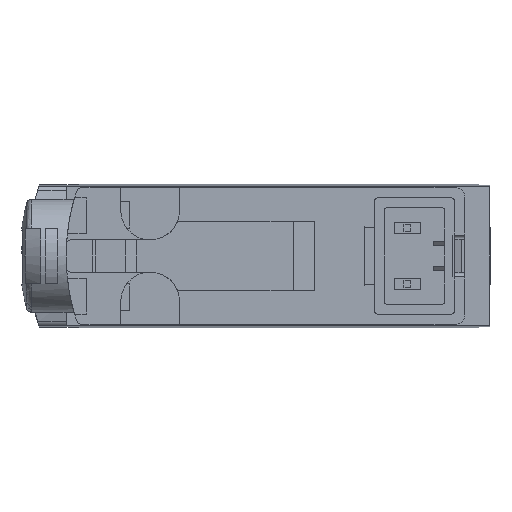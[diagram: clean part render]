
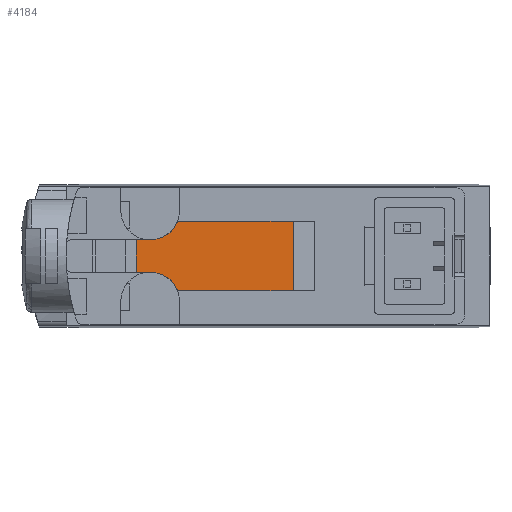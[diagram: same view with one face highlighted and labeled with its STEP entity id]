
A CAD part, left-side view. The second image highlights one B-rep face of the part: STEP entity #4184.
In plain terms, the highlighted planar face has unit normal (-1, 0, 0) as drawn and (1, 0, 0) by its records, which use the part's own axes.
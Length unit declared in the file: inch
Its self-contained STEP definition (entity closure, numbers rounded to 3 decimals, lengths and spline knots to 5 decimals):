
#388 = ORIENTED_EDGE ( 'NONE', *, *, #11418, .T. ) ;
#875 = DIRECTION ( 'NONE',  ( 0., 0., -1. ) ) ;
#1228 = CARTESIAN_POINT ( 'NONE',  ( 0.24409, 0.9252, 0.04528 ) ) ;
#1300 = VERTEX_POINT ( 'NONE', #3786 ) ;
#1339 = DIRECTION ( 'NONE',  ( 0., 0., -1. ) ) ;
#1445 = DIRECTION ( 'NONE',  ( 0., -0.899, -0.437 ) ) ;
#1531 = CARTESIAN_POINT ( 'NONE',  ( 0.24409, 0.88583, 0.12795 ) ) ;
#1699 = VERTEX_POINT ( 'NONE', #11917 ) ;
#2265 = VECTOR ( 'NONE', #7726, 39.37008 ) ;
#2273 = AXIS2_PLACEMENT_3D ( 'NONE', #1531, #9605, #1445 ) ;
#2385 = DIRECTION ( 'NONE',  ( 1., 0., 0. ) ) ;
#2548 = FACE_OUTER_BOUND ( 'NONE', #11368, .T. ) ;
#2722 = VERTEX_POINT ( 'NONE', #16173 ) ;
#2920 = ORIENTED_EDGE ( 'NONE', *, *, #5103, .T. ) ;
#2954 = LINE ( 'NONE', #6953, #8388 ) ;
#3115 = VERTEX_POINT ( 'NONE', #15811 ) ;
#3293 = VERTEX_POINT ( 'NONE', #13534 ) ;
#3522 = EDGE_CURVE ( 'NONE', #4357, #2722, #12190, .T. ) ;
#3607 = CARTESIAN_POINT ( 'NONE',  ( 0.24409, 0.48327, -0.09843 ) ) ;
#3786 = CARTESIAN_POINT ( 'NONE',  ( 0.24409, 0.80086, -0.09843 ) ) ;
#4109 = VECTOR ( 'NONE', #875, 39.37008 ) ;
#4173 = ORIENTED_EDGE ( 'NONE', *, *, #9569, .T. ) ;
#4184 = ADVANCED_FACE ( 'NONE', ( #2548 ), #6457, .T. ) ;
#4219 = AXIS2_PLACEMENT_3D ( 'NONE', #14281, #2385, #1339 ) ;
#4357 = VERTEX_POINT ( 'NONE', #16330 ) ;
#4550 = CARTESIAN_POINT ( 'NONE',  ( 0.24409, 0.81148, -0.09178 ) ) ;
#4651 = LINE ( 'NONE', #9955, #9206 ) ;
#4729 = ORIENTED_EDGE ( 'NONE', *, *, #5742, .F. ) ;
#4764 = DIRECTION ( 'NONE',  ( 0., 0., 1. ) ) ;
#5032 = DIRECTION ( 'NONE',  ( 0., 0.899, 0.438 ) ) ;
#5103 = EDGE_CURVE ( 'NONE', #1699, #3293, #4651, .T. ) ;
#5166 = ORIENTED_EDGE ( 'NONE', *, *, #12986, .T. ) ;
#5273 = VERTEX_POINT ( 'NONE', #12091 ) ;
#5336 = CARTESIAN_POINT ( 'NONE',  ( 0.24409, 0.9252, 0.04528 ) ) ;
#5742 = EDGE_CURVE ( 'NONE', #1699, #15003, #6348, .T. ) ;
#6073 = VERTEX_POINT ( 'NONE', #3607 ) ;
#6348 = CIRCLE ( 'NONE', #16321, 0.08268 ) ;
#6457 = PLANE ( 'NONE',  #4219 ) ;
#6616 = VERTEX_POINT ( 'NONE', #1228 ) ;
#6841 = EDGE_CURVE ( 'NONE', #6616, #3293, #12420, .T. ) ;
#6953 = CARTESIAN_POINT ( 'NONE',  ( 0.24409, 0.48327, 0.09843 ) ) ;
#7086 = ORIENTED_EDGE ( 'NONE', *, *, #15867, .F. ) ;
#7726 = DIRECTION ( 'NONE',  ( 0., -1., 0. ) ) ;
#7757 = AXIS2_PLACEMENT_3D ( 'NONE', #16938, #10335, #5032 ) ;
#7807 = ORIENTED_EDGE ( 'NONE', *, *, #3522, .T. ) ;
#8255 = DIRECTION ( 'NONE',  ( 0., 0., -1. ) ) ;
#8388 = VECTOR ( 'NONE', #8255, 39.37008 ) ;
#8926 = CARTESIAN_POINT ( 'NONE',  ( 0.24409, 0.88583, -0.12795 ) ) ;
#9023 = LINE ( 'NONE', #14322, #2265 ) ;
#9123 = LINE ( 'NONE', #14420, #12946 ) ;
#9206 = VECTOR ( 'NONE', #11163, 39.37008 ) ;
#9484 = CIRCLE ( 'NONE', #2273, 0.08268 ) ;
#9569 = EDGE_CURVE ( 'NONE', #2722, #5273, #9023, .T. ) ;
#9605 = DIRECTION ( 'NONE',  ( 1., 0., 0. ) ) ;
#9955 = CARTESIAN_POINT ( 'NONE',  ( 0.24409, 0.88583, -0.04528 ) ) ;
#10335 = DIRECTION ( 'NONE',  ( 1., 0., 0. ) ) ;
#10656 = DIRECTION ( 'NONE',  ( 0., 0., -1. ) ) ;
#10966 = ORIENTED_EDGE ( 'NONE', *, *, #13828, .T. ) ;
#11018 = CIRCLE ( 'NONE', #13234, 0.01181 ) ;
#11163 = DIRECTION ( 'NONE',  ( 0., 1., 0. ) ) ;
#11368 = EDGE_LOOP ( 'NONE', ( #5166, #10966, #4729, #2920, #14918, #388, #7086, #7807, #4173, #13708 ) ) ;
#11418 = EDGE_CURVE ( 'NONE', #6616, #3115, #11854, .T. ) ;
#11565 = DIRECTION ( 'NONE',  ( 0., 1., 0. ) ) ;
#11854 = LINE ( 'NONE', #5336, #14239 ) ;
#11862 = CARTESIAN_POINT ( 'NONE',  ( 0.24409, 0.80086, -0.08661 ) ) ;
#11917 = CARTESIAN_POINT ( 'NONE',  ( 0.24409, 0.88583, -0.04528 ) ) ;
#11947 = DIRECTION ( 'NONE',  ( 1., 0., 0. ) ) ;
#12018 = DIRECTION ( 'NONE',  ( 0., -1., 0. ) ) ;
#12091 = CARTESIAN_POINT ( 'NONE',  ( 0.24409, 0.48327, 0.09843 ) ) ;
#12190 = CIRCLE ( 'NONE', #7757, 0.01181 ) ;
#12420 = LINE ( 'NONE', #12680, #4109 ) ;
#12680 = CARTESIAN_POINT ( 'NONE',  ( 0.24409, 0.9252, 0.04528 ) ) ;
#12946 = VECTOR ( 'NONE', #11565, 39.37008 ) ;
#12986 = EDGE_CURVE ( 'NONE', #6073, #1300, #9123, .T. ) ;
#13234 = AXIS2_PLACEMENT_3D ( 'NONE', #11862, #11947, #10656 ) ;
#13534 = CARTESIAN_POINT ( 'NONE',  ( 0.24409, 0.9252, -0.04528 ) ) ;
#13708 = ORIENTED_EDGE ( 'NONE', *, *, #16718, .T. ) ;
#13828 = EDGE_CURVE ( 'NONE', #1300, #15003, #11018, .T. ) ;
#14222 = DIRECTION ( 'NONE',  ( 1., 0., 0. ) ) ;
#14239 = VECTOR ( 'NONE', #12018, 39.37008 ) ;
#14281 = CARTESIAN_POINT ( 'NONE',  ( 0.24409, 0.9252, 0.11811 ) ) ;
#14322 = CARTESIAN_POINT ( 'NONE',  ( 0.24409, 0.80086, 0.09843 ) ) ;
#14420 = CARTESIAN_POINT ( 'NONE',  ( 0.24409, 0.48327, -0.09843 ) ) ;
#14918 = ORIENTED_EDGE ( 'NONE', *, *, #6841, .F. ) ;
#15003 = VERTEX_POINT ( 'NONE', #4550 ) ;
#15811 = CARTESIAN_POINT ( 'NONE',  ( 0.24409, 0.88583, 0.04528 ) ) ;
#15867 = EDGE_CURVE ( 'NONE', #4357, #3115, #9484, .T. ) ;
#16173 = CARTESIAN_POINT ( 'NONE',  ( 0.24409, 0.80086, 0.09843 ) ) ;
#16321 = AXIS2_PLACEMENT_3D ( 'NONE', #8926, #14222, #4764 ) ;
#16330 = CARTESIAN_POINT ( 'NONE',  ( 0.24409, 0.81148, 0.09178 ) ) ;
#16718 = EDGE_CURVE ( 'NONE', #5273, #6073, #2954, .T. ) ;
#16938 = CARTESIAN_POINT ( 'NONE',  ( 0.24409, 0.80086, 0.08661 ) ) ;
